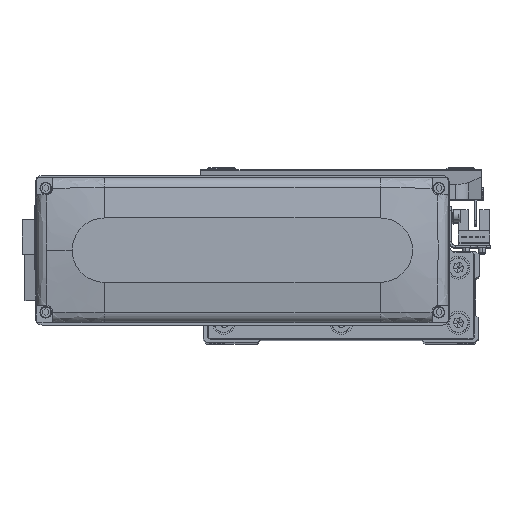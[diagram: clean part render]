
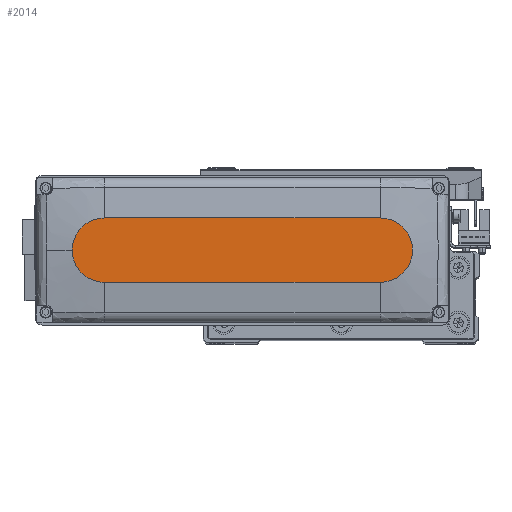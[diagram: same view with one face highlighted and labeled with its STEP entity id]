
A CAD part, top view. The second image highlights one B-rep face of the part: STEP entity #2014.
In plain terms, the highlighted planar face has unit normal (0, 0, 1).
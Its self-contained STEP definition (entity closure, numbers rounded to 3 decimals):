
#370 = CARTESIAN_POINT ( 'NONE',  ( 60., 14., 28.5 ) ) ;
#906 = ORIENTED_EDGE ( 'NONE', *, *, #23940, .T. ) ;
#1130 = CARTESIAN_POINT ( 'NONE',  ( -60., -14., 28.5 ) ) ;
#1410 = PLANE ( 'NONE',  #7589 ) ;
#1728 = CARTESIAN_POINT ( 'NONE',  ( 60., 0., 28.5 ) ) ;
#1824 = DIRECTION ( 'NONE',  ( 1., 0., 0. ) ) ;
#2014 = ADVANCED_FACE ( 'NONE', ( #31233 ), #1410, .T. ) ;
#3713 = CIRCLE ( 'NONE', #28045, 14. ) ;
#4243 = ORIENTED_EDGE ( 'NONE', *, *, #29641, .T. ) ;
#5311 = VECTOR ( 'NONE', #14428, 1000. ) ;
#6346 = AXIS2_PLACEMENT_3D ( 'NONE', #1728, #15028, #28277 ) ;
#6917 = DIRECTION ( 'NONE',  ( 0., 0., 1. ) ) ;
#7555 = CIRCLE ( 'NONE', #31896, 14. ) ;
#7589 = AXIS2_PLACEMENT_3D ( 'NONE', #14704, #27956, #41247 ) ;
#7757 = DIRECTION ( 'NONE',  ( -1., 0., 0. ) ) ;
#8173 = EDGE_CURVE ( 'NONE', #27733, #36187, #24282, .T. ) ;
#9184 = CARTESIAN_POINT ( 'NONE',  ( -60., -14., 28.5 ) ) ;
#9674 = CARTESIAN_POINT ( 'NONE',  ( -60., 14., 28.5 ) ) ;
#10799 = VERTEX_POINT ( 'NONE', #34424 ) ;
#10938 = ORIENTED_EDGE ( 'NONE', *, *, #8173, .T. ) ;
#11024 = ORIENTED_EDGE ( 'NONE', *, *, #13572, .T. ) ;
#13572 = EDGE_CURVE ( 'NONE', #28607, #10799, #25121, .T. ) ;
#14428 = DIRECTION ( 'NONE',  ( 1., 0., 0. ) ) ;
#14704 = CARTESIAN_POINT ( 'NONE',  ( 0., 0., 28.5 ) ) ;
#15007 = EDGE_LOOP ( 'NONE', ( #10938, #906, #26110, #11024, #4243 ) ) ;
#15028 = DIRECTION ( 'NONE',  ( 0., 0., 1. ) ) ;
#18359 = CARTESIAN_POINT ( 'NONE',  ( 60., 0., 28.5 ) ) ;
#20185 = DIRECTION ( 'NONE',  ( 1., 0., 0. ) ) ;
#23940 = EDGE_CURVE ( 'NONE', #36187, #30349, #7555, .T. ) ;
#24282 = LINE ( 'NONE', #37603, #36107 ) ;
#25121 = CIRCLE ( 'NONE', #6346, 14. ) ;
#26110 = ORIENTED_EDGE ( 'NONE', *, *, #38168, .T. ) ;
#27733 = VERTEX_POINT ( 'NONE', #370 ) ;
#27956 = DIRECTION ( 'NONE',  ( 0., 0., 1. ) ) ;
#28045 = AXIS2_PLACEMENT_3D ( 'NONE', #18359, #31649, #1824 ) ;
#28277 = DIRECTION ( 'NONE',  ( 1., 0., 0. ) ) ;
#28607 = VERTEX_POINT ( 'NONE', #37235 ) ;
#29641 = EDGE_CURVE ( 'NONE', #10799, #27733, #3713, .T. ) ;
#30349 = VERTEX_POINT ( 'NONE', #9184 ) ;
#30946 = LINE ( 'NONE', #1130, #5311 ) ;
#31233 = FACE_OUTER_BOUND ( 'NONE', #15007, .T. ) ;
#31649 = DIRECTION ( 'NONE',  ( 0., 0., 1. ) ) ;
#31896 = AXIS2_PLACEMENT_3D ( 'NONE', #36769, #6917, #20185 ) ;
#34424 = CARTESIAN_POINT ( 'NONE',  ( 74., 0., 28.5 ) ) ;
#36107 = VECTOR ( 'NONE', #7757, 1000. ) ;
#36187 = VERTEX_POINT ( 'NONE', #9674 ) ;
#36769 = CARTESIAN_POINT ( 'NONE',  ( -60., 0., 28.5 ) ) ;
#37235 = CARTESIAN_POINT ( 'NONE',  ( 60., -14., 28.5 ) ) ;
#37603 = CARTESIAN_POINT ( 'NONE',  ( -60., 14., 28.5 ) ) ;
#38168 = EDGE_CURVE ( 'NONE', #30349, #28607, #30946, .T. ) ;
#41247 = DIRECTION ( 'NONE',  ( 1., 0., 0. ) ) ;
